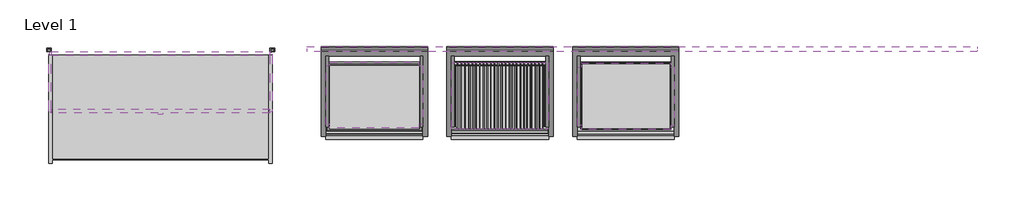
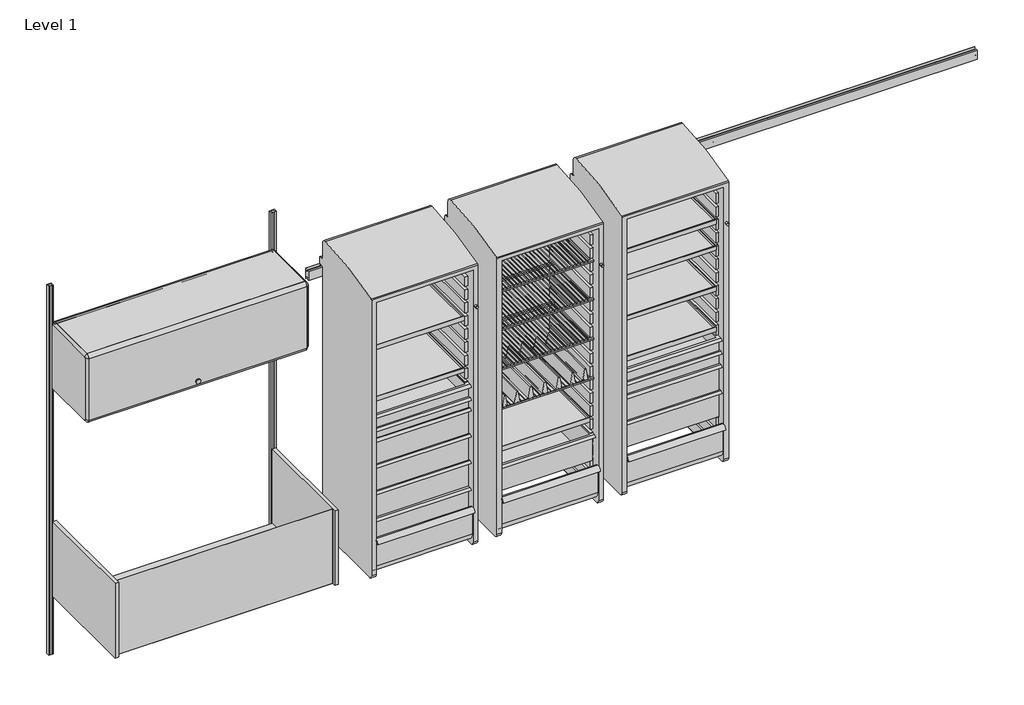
# One storey, incomplete: 32 furniture elements.
"""IFC4 building model written with IfcOpenShell, lengths in millimetres."""

from ifc_helpers import new_model, si_unit, origin, place, context, project, spatial, transform, mapped, element, save
from components import furniture_ea4a19f1, furniture_ac9ddba1, furniture_955c4189, furniture_14b667b5, furniture_1979b876, furniture_057a80fa, furniture_16c4bec0, furniture_f6e26599, furniture_6a9bea8c, furniture_0eaea0f9, furniture_83f72333, furniture_bfc73138, furniture_4fdc6e53, furniture_27da73ad, furniture_8d228605, furniture_ebb16344, furniture_ea425779, a_3_2d132fd5, a_3_34f6b35d, a_3_9c7b58b7, a_3_76b2af0c, b_6_49bc5308, b_6_eadec2fb, b_6_fe23bc84, b_6_f31ca194, b_6_3d1a9f76, b_6_e21043c8, c_9_c2c7ca91, standard_144w_a9847ba4

model = new_model("IFC4")

# Units and contexts
model_context = context("Model", 3, world=origin())
ifc_project = project(units=[si_unit("LENGTHUNIT", "METRE", prefix="MILLI")], contexts=[model_context])

# Site, building, storey
site = spatial("IfcSite", under=ifc_project)
building = spatial("IfcBuilding", under=site)
storey = spatial("IfcBuildingStorey", under=building, Name="Level 1", Elevation=0.0)

# Furniture
placement = place(None, origin())
furniture_shape = furniture_ea4a19f1(model_context)
element("IfcFurniture", 1, ObjectType="HermanMiller_CoStruc_C2512_SinkModule : 18\"H x 24\"D x 48\"W", at=placement, inside=storey, context=model_context, shape_type="MappedRepresentation", body=[
    mapped(furniture_shape, transform((609.6, -206.375, 0.0), x_axis=(1.0, 0.0, 0.0), y_axis=(0.0, 1.0, 0.0), z_axis=(0.0, 0.0, 1.0))),
])
furniture_2_shape = furniture_ac9ddba1(model_context)
element("IfcFurniture", 2, ObjectType="HermanMiller_CoStruc_CO561_LockerWithTambourDoor : 66\"H x 20\"D x 22\"W Wlock", at=placement, inside=storey, context=model_context, shape_type="MappedRepresentation", body=[
    mapped(furniture_2_shape, transform((3148.0125, -236.5375, 0.0), x_axis=(1.0, 0.0, 0.0), y_axis=(0.0, 1.0, 0.0), z_axis=(0.0, 0.0, 1.0))),
])
element("IfcFurniture", 3, ObjectType="HermanMiller_CoStruc_CO561_LockerWithTambourDoor : 66\"H x 20\"D x 22\"W Wlock", at=placement, inside=storey, context=model_context, shape_type="MappedRepresentation", body=[
    mapped(furniture_2_shape, transform((2462.2125, -236.5375, 0.0), x_axis=(1.0, 0.0, 0.0), y_axis=(0.0, 1.0, 0.0), z_axis=(0.0, 0.0, 1.0))),
])
element("IfcFurniture", 4, ObjectType="HermanMiller_CoStruc_CO561_LockerWithTambourDoor : 66\"H x 20\"D x 22\"W Wlock", at=placement, inside=storey, context=model_context, shape_type="MappedRepresentation", body=[
    mapped(furniture_2_shape, transform((1776.4125, -236.5375, 0.0), x_axis=(1.0, 0.0, 0.0), y_axis=(0.0, 1.0, 0.0), z_axis=(0.0, 0.0, 1.0))),
])
furniture_3_shape = furniture_955c4189(model_context)
element("IfcFurniture", 5, ObjectType="HermanMiller_CoStruc_CO252_CWireShelf : 14D x 20W", at=placement, inside=storey, context=model_context, shape_type="MappedRepresentation", body=[
    mapped(furniture_3_shape, transform((2462.27092, -259.62102, 0.0), x_axis=(1.0, 0.0, 0.0), y_axis=(0.0, 1.0, 0.0), z_axis=(0.0, 0.0, 1.0))),
])
furniture_4_shape = furniture_14b667b5(model_context)
element("IfcFurniture", 6, ObjectType="HermanMiller_CoStruc_CO252_CWireShelf : 14D x 20W", at=placement, inside=storey, context=model_context, shape_type="MappedRepresentation", body=[
    mapped(furniture_4_shape, transform((2462.27092, -259.62102, 0.0), x_axis=(1.0, 0.0, 0.0), y_axis=(0.0, 1.0, 0.0), z_axis=(0.0, 0.0, 1.0))),
])
furniture_5_shape = furniture_1979b876(model_context)
element("IfcFurniture", 7, ObjectType="HermanMiller_CoStruc_CO252_CWireShelf : 14D x 20W", at=placement, inside=storey, context=model_context, shape_type="MappedRepresentation", body=[
    mapped(furniture_5_shape, transform((2462.27092, -259.62102, 0.0), x_axis=(1.0, 0.0, 0.0), y_axis=(0.0, 1.0, 0.0), z_axis=(0.0, 0.0, 1.0))),
])
furniture_6_shape = furniture_057a80fa(model_context)
element("IfcFurniture", 8, ObjectType="HermanMiller_CoStruc_CO252_CWireShelf : 14D x 20W", at=placement, inside=storey, context=model_context, shape_type="MappedRepresentation", body=[
    mapped(furniture_6_shape, transform((2462.27092, -259.62102, 0.0), x_axis=(1.0, 0.0, 0.0), y_axis=(0.0, 1.0, 0.0), z_axis=(0.0, 0.0, 1.0))),
])
furniture_7_shape = furniture_16c4bec0(model_context)
element("IfcFurniture", 9, ObjectType="HermanMiller_CoStruc_CO203_CTrayShelf : 14\"D x 20\"W", at=placement, inside=storey, context=model_context, shape_type="MappedRepresentation", body=[
    mapped(furniture_7_shape, transform((3149.65842, -262.77062, 0.0), x_axis=(-1.0, 0.0, 0.0), y_axis=(0.0, -1.0, 0.0), z_axis=(0.0, 0.0, 1.0))),
])
furniture_8_shape = furniture_f6e26599(model_context)
element("IfcFurniture", 10, ObjectType="HermanMiller_CoStruc_CO203_CTrayShelf : 14\"D x 20\"W", at=placement, inside=storey, context=model_context, shape_type="MappedRepresentation", body=[
    mapped(furniture_8_shape, transform((3149.65842, -262.77062, 0.0), x_axis=(-1.0, 0.0, 0.0), y_axis=(0.0, -1.0, 0.0), z_axis=(0.0, 0.0, 1.0))),
])
furniture_9_shape = furniture_6a9bea8c(model_context)
element("IfcFurniture", 11, ObjectType="HermanMiller_CoStruc_CO203_CTrayShelf : 14\"D x 20\"W", at=placement, inside=storey, context=model_context, shape_type="MappedRepresentation", body=[
    mapped(furniture_9_shape, transform((3149.65842, -262.77062, 0.0), x_axis=(-1.0, 0.0, 0.0), y_axis=(0.0, -1.0, 0.0), z_axis=(0.0, 0.0, 1.0))),
])
furniture_10_shape = furniture_0eaea0f9(model_context)
element("IfcFurniture", 12, ObjectType="HermanMiller_CoStruc_CO203_CTrayShelf : 14\"D x 20\"W", at=placement, inside=storey, context=model_context, shape_type="MappedRepresentation", body=[
    mapped(furniture_10_shape, transform((3149.65842, -262.77062, 0.0), x_axis=(-1.0, 0.0, 0.0), y_axis=(0.0, -1.0, 0.0), z_axis=(0.0, 0.0, 1.0))),
])
furniture_11_shape = furniture_83f72333(model_context)
element("IfcFurniture", 13, ObjectType="HermanMiller_CoStruc_CO203_CTrayShelf : 14\"D x 20\"W", at=placement, inside=storey, context=model_context, shape_type="MappedRepresentation", body=[
    mapped(furniture_11_shape, transform((2460.45482, -258.03352, 0.0), x_axis=(-1.0, 0.0, 0.0), y_axis=(0.0, -1.0, 0.0), z_axis=(0.0, 0.0, 1.0))),
])
furniture_12_shape = furniture_bfc73138(model_context)
element("IfcFurniture", 14, ObjectType="HermanMiller_CoStruc_CO203_CTrayShelf : 14\"D x 20\"W", at=placement, inside=storey, context=model_context, shape_type="MappedRepresentation", body=[
    mapped(furniture_12_shape, transform((1776.47092, -256.42062, 0.0), x_axis=(1.0, 0.0, 0.0), y_axis=(0.0, 1.0, 0.0), z_axis=(0.0, 0.0, 1.0))),
])
furniture_13_shape = furniture_4fdc6e53(model_context)
element("IfcFurniture", 15, ObjectType="HermanMiller_CoStruc_CO203_CTrayShelf : 14\"D x 20\"W", at=placement, inside=storey, context=model_context, shape_type="MappedRepresentation", body=[
    mapped(furniture_13_shape, transform((1776.47092, -256.42062, 0.0), x_axis=(1.0, 0.0, 0.0), y_axis=(0.0, 1.0, 0.0), z_axis=(0.0, 0.0, 1.0))),
])
furniture_14_shape = furniture_27da73ad(model_context)
element("IfcFurniture", 16, ObjectType="HermanMiller_CoStruc_CO242_Subdivider Vane : 2 5/8\"Hx13 3/4\"D x 18 1/2\"W", at=placement, inside=storey, context=model_context, shape_type="MappedRepresentation", body=[
    mapped(furniture_14_shape, transform((2458.7999717, -268.76502, 0.0), x_axis=(1.0, 0.0, 0.0), y_axis=(0.0, 1.0, 0.0), z_axis=(0.0, 0.0, 1.0))),
])
furniture_15_shape = furniture_8d228605(model_context)
element("IfcFurniture", 17, ObjectType="HermanMiller_CoStruc_B-StyleShelf : 15-1/2H x 13D x 48W", at=placement, inside=storey, context=model_context, shape_type="MappedRepresentation", body=[
    mapped(furniture_15_shape, transform((733.5420045, -200.025, 457.2), x_axis=(1.0, 0.0, 0.0), y_axis=(0.0, 1.0, 0.0), z_axis=(0.0, 0.0, 1.0))),
])
furniture_16_shape = furniture_ebb16344(model_context)
element("IfcFurniture", 18, ObjectType="HermanMiller_ActionOffice_B-StyleFlipperDoor : Paint 15-1/2H x 13D x 48W", at=placement, inside=storey, context=model_context, shape_type="MappedRepresentation", body=[
    mapped(furniture_16_shape, transform((609.6, -200.025, 457.2), x_axis=(1.0, 0.0, 0.0), y_axis=(0.0, 1.0, 0.0), z_axis=(0.0, 0.0, 1.0))),
])
furniture_17_shape = furniture_ea425779(model_context)
element("IfcFurniture", 19, ObjectType="HermanMiller_ActionOffice_AO213_WallStrip : 84\"H", at=placement, inside=storey, context=model_context, shape_type="MappedRepresentation", body=[
    mapped(furniture_17_shape, transform((1219.2, 0.0, 0.0), x_axis=(1.0, 0.0, 0.0), y_axis=(0.0, 1.0, 0.0), z_axis=(0.0, 0.0, 1.0))),
])
element("IfcFurniture", 20, ObjectType="HermanMiller_ActionOffice_AO213_WallStrip : 84\"H", at=placement, inside=storey, context=model_context, shape_type="MappedRepresentation", body=[
    mapped(furniture_17_shape, transform((0.0, 0.0, 0.0), x_axis=(1.0, 0.0, 0.0), y_axis=(0.0, 1.0, 0.0), z_axis=(0.0, 0.0, 1.0))),
])
a_3_shape = a_3_2d132fd5(model_context)
element("IfcFurniture", 21, ObjectType="HermanMiller_CoStruc_CO207_Drawer : A - 3", at=placement, inside=storey, context=model_context, shape_type="MappedRepresentation", body=[
    mapped(a_3_shape, transform((3148.0035717, -272.32102, 0.0), x_axis=(1.0, 0.0, 0.0), y_axis=(0.0, 1.0, 0.0), z_axis=(0.0, 0.0, 1.0))),
])
a_3_2_shape = a_3_34f6b35d(model_context)
element("IfcFurniture", 22, ObjectType="HermanMiller_CoStruc_CO207_Drawer : A - 3", at=placement, inside=storey, context=model_context, shape_type="MappedRepresentation", body=[
    mapped(a_3_2_shape, transform((3148.0035717, -272.32102, 0.0), x_axis=(1.0, 0.0, 0.0), y_axis=(0.0, 1.0, 0.0), z_axis=(0.0, 0.0, 1.0))),
])
a_3_3_shape = a_3_9c7b58b7(model_context)
element("IfcFurniture", 23, ObjectType="HermanMiller_CoStruc_CO207_Drawer : A - 3", at=placement, inside=storey, context=model_context, shape_type="MappedRepresentation", body=[
    mapped(a_3_3_shape, transform((1776.4035717, -272.32102, 0.0), x_axis=(1.0, 0.0, 0.0), y_axis=(0.0, 1.0, 0.0), z_axis=(0.0, 0.0, 1.0))),
])
a_3_4_shape = a_3_76b2af0c(model_context)
element("IfcFurniture", 24, ObjectType="HermanMiller_CoStruc_CO207_Drawer : A - 3", at=placement, inside=storey, context=model_context, shape_type="MappedRepresentation", body=[
    mapped(a_3_4_shape, transform((1776.4035717, -272.32102, 0.0), x_axis=(1.0, 0.0, 0.0), y_axis=(0.0, 1.0, 0.0), z_axis=(0.0, 0.0, 1.0))),
])
b_6_shape = b_6_49bc5308(model_context)
element("IfcFurniture", 25, ObjectType="HermanMiller_CoStruc_CO207_Drawer : B - 6", at=placement, inside=storey, context=model_context, shape_type="MappedRepresentation", body=[
    mapped(b_6_shape, transform((3148.0035717, -272.32102, 0.0), x_axis=(1.0, 0.0, 0.0), y_axis=(0.0, 1.0, 0.0), z_axis=(0.0, 0.0, 1.0))),
])
b_6_2_shape = b_6_eadec2fb(model_context)
element("IfcFurniture", 26, ObjectType="HermanMiller_CoStruc_CO207_Drawer : B - 6", at=placement, inside=storey, context=model_context, shape_type="MappedRepresentation", body=[
    mapped(b_6_2_shape, transform((3148.0035717, -272.32102, 0.0), x_axis=(1.0, 0.0, 0.0), y_axis=(0.0, 1.0, 0.0), z_axis=(0.0, 0.0, 1.0))),
])
b_6_3_shape = b_6_fe23bc84(model_context)
element("IfcFurniture", 27, ObjectType="HermanMiller_CoStruc_CO207_Drawer : B - 6", at=placement, inside=storey, context=model_context, shape_type="MappedRepresentation", body=[
    mapped(b_6_3_shape, transform((1776.4035717, -272.32102, 0.0), x_axis=(1.0, 0.0, 0.0), y_axis=(0.0, 1.0, 0.0), z_axis=(0.0, 0.0, 1.0))),
])
b_6_4_shape = b_6_f31ca194(model_context)
element("IfcFurniture", 28, ObjectType="HermanMiller_CoStruc_CO207_Drawer : B - 6", at=placement, inside=storey, context=model_context, shape_type="MappedRepresentation", body=[
    mapped(b_6_4_shape, transform((1776.4035717, -272.32102, 0.0), x_axis=(1.0, 0.0, 0.0), y_axis=(0.0, 1.0, 0.0), z_axis=(0.0, 0.0, 1.0))),
])
b_6_5_shape = b_6_3d1a9f76(model_context)
element("IfcFurniture", 29, ObjectType="HermanMiller_CoStruc_CO207_Drawer : B - 6", at=placement, inside=storey, context=model_context, shape_type="MappedRepresentation", body=[
    mapped(b_6_5_shape, transform((2458.7999717, -267.58392, 0.0), x_axis=(1.0, 0.0, 0.0), y_axis=(0.0, 1.0, 0.0), z_axis=(0.0, 0.0, 1.0))),
])
b_6_6_shape = b_6_e21043c8(model_context)
element("IfcFurniture", 30, ObjectType="HermanMiller_CoStruc_CO207_Drawer : B - 6", at=placement, inside=storey, context=model_context, shape_type="MappedRepresentation", body=[
    mapped(b_6_6_shape, transform((1776.4035717, -272.32102, 0.0), x_axis=(1.0, 0.0, 0.0), y_axis=(0.0, 1.0, 0.0), z_axis=(0.0, 0.0, 1.0))),
])
c_9_shape = c_9_c2c7ca91(model_context)
element("IfcFurniture", 31, ObjectType="HermanMiller_CoStruc_CO207_Drawer : C - 9", at=placement, inside=storey, context=model_context, shape_type="MappedRepresentation", body=[
    mapped(c_9_shape, transform((1776.4035717, -272.32102, 0.0), x_axis=(1.0, 0.0, 0.0), y_axis=(0.0, 1.0, 0.0), z_axis=(0.0, 0.0, 1.0))),
])
standard_144w_shape = standard_144w_a9847ba4(model_context)
element("IfcFurniture", 32, ObjectType="HermanMiller_CoStruc_CO282_StandardRail : Standard 144W", at=placement, inside=storey, context=model_context, shape_type="MappedRepresentation", body=[
    mapped(standard_144w_shape, transform((3305.8205525, 9.525, 0.0), x_axis=(1.0, 0.0, 0.0), y_axis=(0.0, 1.0, 0.0), z_axis=(0.0, 0.0, 1.0))),
])

save(model, "model.ifc")
